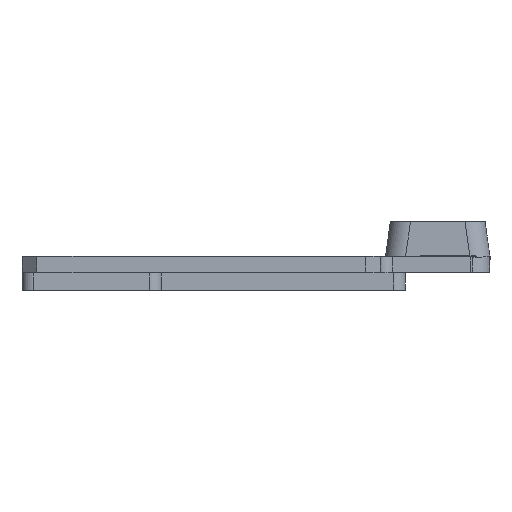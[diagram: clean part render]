
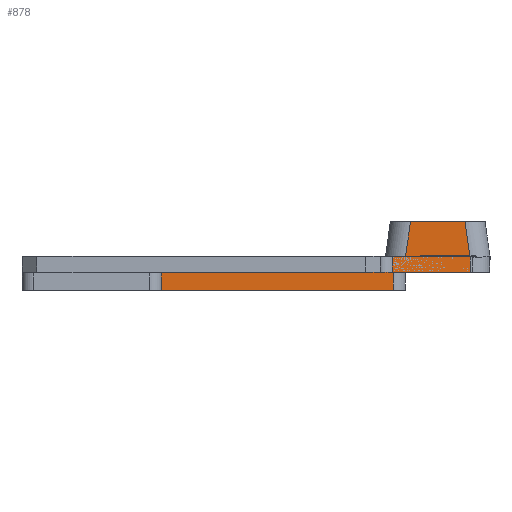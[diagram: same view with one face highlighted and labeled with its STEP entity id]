
A CAD part, left-side view. The second image highlights one B-rep face of the part: STEP entity #878.
In plain terms, the highlighted planar face has unit normal (-1, 0, 0).
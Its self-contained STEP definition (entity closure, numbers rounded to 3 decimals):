
#878 = ADVANCED_FACE( '', ( #1418 ), #1419, .T. );
#1418 = FACE_OUTER_BOUND( '', #2415, .T. );
#1419 = PLANE( '', #2416 );
#2415 = EDGE_LOOP( '', ( #3448, #3449, #3450, #3451, #3452, #3453, #3454, #3455, #3456 ) );
#2416 = AXIS2_PLACEMENT_3D( '', #3457, #3458, #3459 );
#3448 = ORIENTED_EDGE( '', *, *, #4202, .F. );
#3449 = ORIENTED_EDGE( '', *, *, #4203, .T. );
#3450 = ORIENTED_EDGE( '', *, *, #4185, .F. );
#3451 = ORIENTED_EDGE( '', *, *, #4191, .F. );
#3452 = ORIENTED_EDGE( '', *, *, #4196, .F. );
#3453 = ORIENTED_EDGE( '', *, *, #4204, .T. );
#3454 = ORIENTED_EDGE( '', *, *, #4205, .F. );
#3455 = ORIENTED_EDGE( '', *, *, #4206, .T. );
#3456 = ORIENTED_EDGE( '', *, *, #4207, .T. );
#3457 = CARTESIAN_POINT( '', ( -16.3, 0., 47. ) );
#3458 = DIRECTION( '', ( -1., 0., 0. ) );
#3459 = DIRECTION( '', ( 0., -1., 0. ) );
#4185 = EDGE_CURVE( '', #5150, #5152, #5153, .T. );
#4191 = EDGE_CURVE( '', #5161, #5150, #5163, .T. );
#4196 = EDGE_CURVE( '', #5171, #5161, #5173, .T. );
#4202 = EDGE_CURVE( '', #5183, #5184, #5185, .T. );
#4203 = EDGE_CURVE( '', #5183, #5152, #5186, .F. );
#4204 = EDGE_CURVE( '', #5171, #5187, #5188, .F. );
#4205 = EDGE_CURVE( '', #5189, #5187, #5190, .T. );
#4206 = EDGE_CURVE( '', #5189, #5191, #5192, .F. );
#4207 = EDGE_CURVE( '', #5191, #5184, #5193, .F. );
#5150 = VERTEX_POINT( '', #5902 );
#5152 = VERTEX_POINT( '', #5905 );
#5153 = LINE( '', #5906, #5907 );
#5161 = VERTEX_POINT( '', #5917 );
#5163 = LINE( '', #5920, #5921 );
#5171 = VERTEX_POINT( '', #5931 );
#5173 = LINE( '', #5933, #5934 );
#5183 = VERTEX_POINT( '', #5946 );
#5184 = VERTEX_POINT( '', #5947 );
#5185 = LINE( '', #5948, #5949 );
#5186 = LINE( '', #5950, #5951 );
#5187 = VERTEX_POINT( '', #5952 );
#5188 = LINE( '', #5953, #5954 );
#5189 = VERTEX_POINT( '', #5955 );
#5190 = LINE( '', #5956, #5957 );
#5191 = VERTEX_POINT( '', #5958 );
#5192 = LINE( '', #5959, #5960 );
#5193 = LINE( '', #5961, #5962 );
#5902 = CARTESIAN_POINT( '', ( -16.3, 0., 33. ) );
#5905 = CARTESIAN_POINT( '', ( -16.3, 0., 8.48 ) );
#5906 = CARTESIAN_POINT( '', ( -16.3, 0., 10.5 ) );
#5907 = VECTOR( '', #6378, 1000. );
#5917 = CARTESIAN_POINT( '', ( -16.3, 3.4, 33. ) );
#5920 = CARTESIAN_POINT( '', ( -16.3, 0., 33. ) );
#5921 = VECTOR( '', #6388, 1000. );
#5931 = CARTESIAN_POINT( '', ( -16.3, 3.4, 9.7 ) );
#5933 = CARTESIAN_POINT( '', ( -16.3, 3.4, 47. ) );
#5934 = VECTOR( '', #6397, 1000. );
#5946 = CARTESIAN_POINT( '', ( -16.3, -3.5, 7.988 ) );
#5947 = CARTESIAN_POINT( '', ( -16.3, -3.5, 2.512 ) );
#5948 = CARTESIAN_POINT( '', ( -16.3, -3.5, 10.008 ) );
#5949 = VECTOR( '', #6409, 1000. );
#5950 = CARTESIAN_POINT( '', ( -16.3, 5.309, 9.226 ) );
#5951 = VECTOR( '', #6410, 1000. );
#5952 = CARTESIAN_POINT( '', ( -16.3, 1.6, 9.7 ) );
#5953 = CARTESIAN_POINT( '', ( -16.3, 0., 9.7 ) );
#5954 = VECTOR( '', #6411, 1000. );
#5955 = CARTESIAN_POINT( '', ( -16.3, 1.6, 2. ) );
#5956 = CARTESIAN_POINT( '', ( -16.3, 1.6, 0. ) );
#5957 = VECTOR( '', #6412, 1000. );
#5958 = CARTESIAN_POINT( '', ( -16.3, 0.14, 2. ) );
#5959 = CARTESIAN_POINT( '', ( -16.3, 0., 2. ) );
#5960 = VECTOR( '', #6413, 1000. );
#5961 = CARTESIAN_POINT( '', ( -16.3, -6.199, 2.891 ) );
#5962 = VECTOR( '', #6414, 1000. );
#6378 = DIRECTION( '', ( 0., 0., -1. ) );
#6388 = DIRECTION( '', ( 0., -1., 0. ) );
#6397 = DIRECTION( '', ( 0., 0., 1. ) );
#6409 = DIRECTION( '', ( 0., 0., -1. ) );
#6410 = DIRECTION( '', ( 0., -0.99, -0.139 ) );
#6411 = DIRECTION( '', ( 0., 1., 0. ) );
#6412 = DIRECTION( '', ( 0., 0., 1. ) );
#6413 = DIRECTION( '', ( 0., 1., 0. ) );
#6414 = DIRECTION( '', ( 0., 0.99, -0.139 ) );
